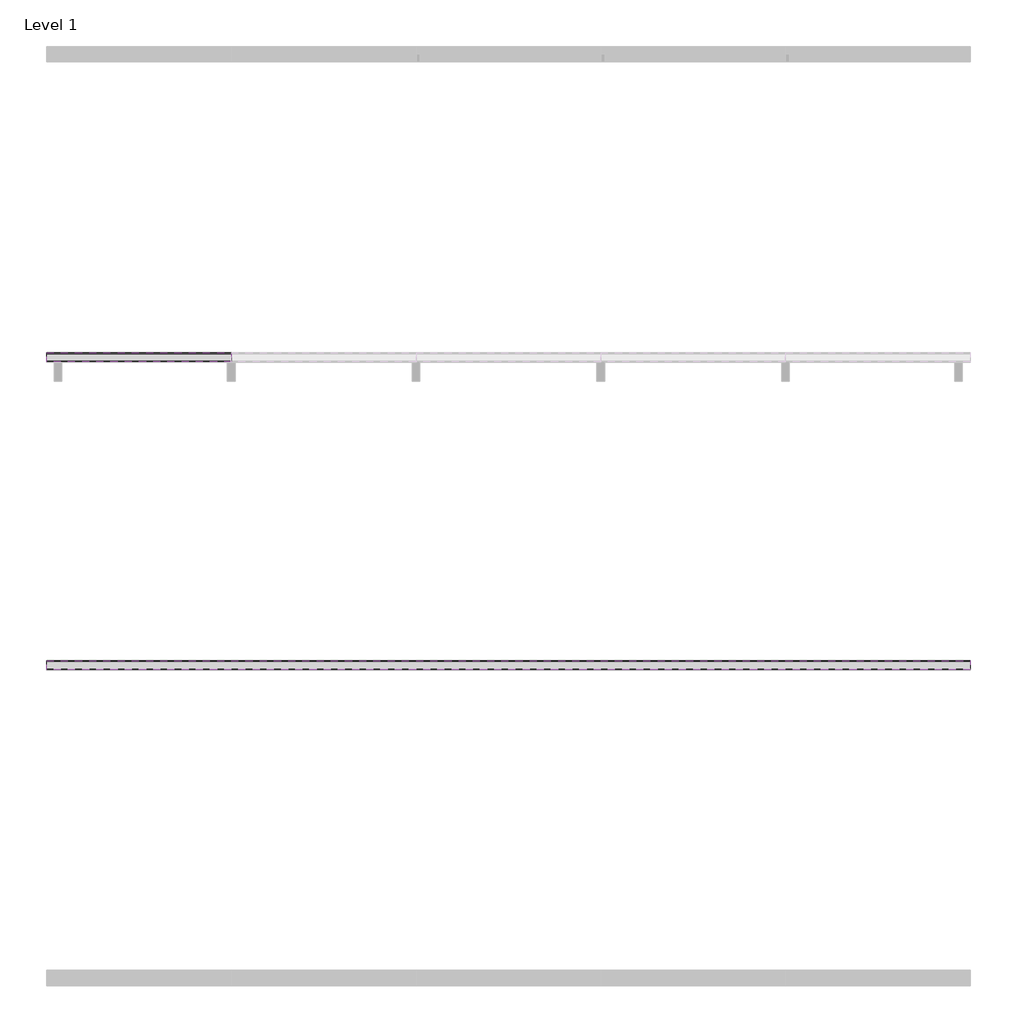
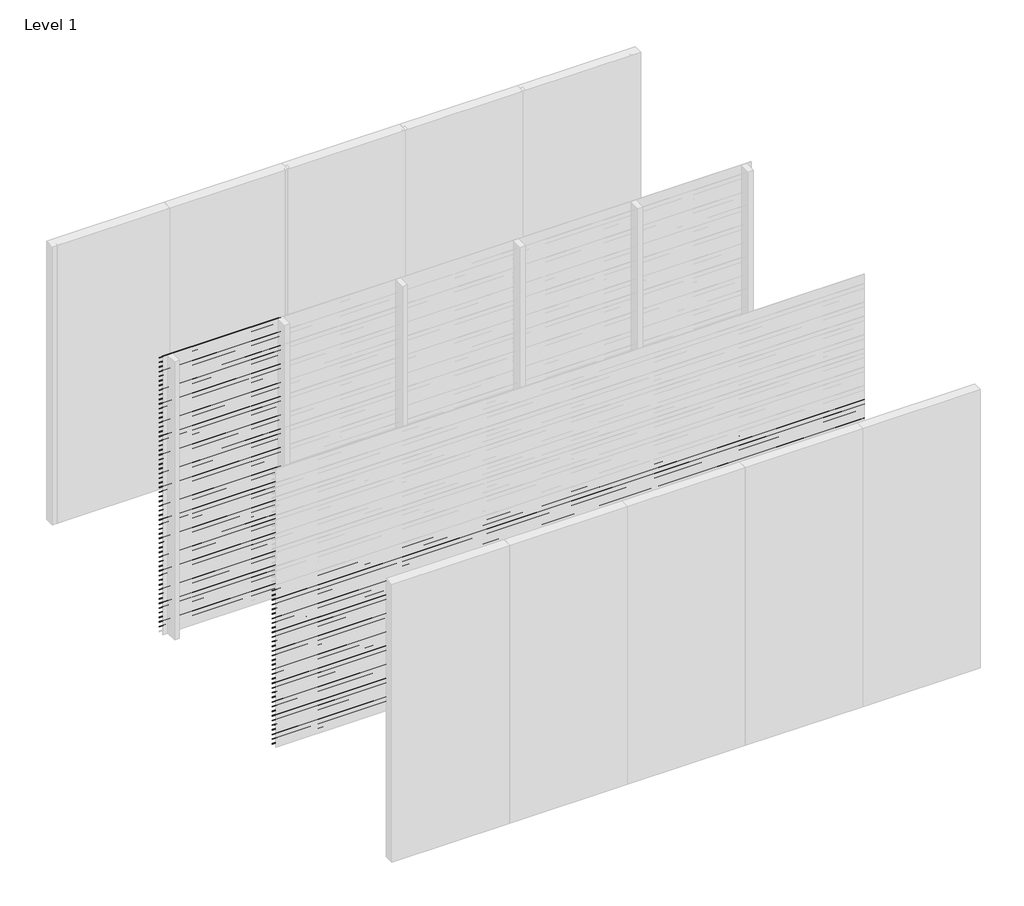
# One storey, part 2 of 16: 93 proxies.
"""IFC4 building model written with IfcOpenShell, lengths in millimetres."""

from ifc_helpers import new_model, si_unit, frame, origin, place, context, project, spatial, polyline, outline, extrude, element, save

model = new_model("IFC4")

# Units and contexts
model_context = context("Model", 3, world=origin())
ifc_project = project(units=[si_unit("LENGTHUNIT", "METRE", prefix="MILLI")], contexts=[model_context])

# Site, building, storey
site = spatial("IfcSite", under=ifc_project)
building = spatial("IfcBuilding", under=site)
storey = spatial("IfcBuildingStorey", under=building, Name="Level 1", Elevation=0.0)

# Proxies
placement = place(None, origin())
element("IfcBuildingElementProxy", 1, Name="Wall Sweeps", at=placement, inside=storey, context=model_context, shape_type="SweptSolid", body=[
    extrude(outline(polyline([(-17995.0, 3000.0), (-17995.0, 2998.0), (-17939.0, 2954.0), (-17939.0, 2946.0), (-17997.0, 2991.5714286), (-17997.0, 3000.0), (-17995.0, 3000.0)])), frame((0.0, 0.0, 0.0), z_axis=(1.0, 0.0, 0.0), x_axis=(0.0, 1.0, 0.0)), (0.0, 0.0, 1.0), 1200.0000002),
])
element("IfcBuildingElementProxy", 2, Name="Wall Sweeps", at=placement, inside=storey, context=model_context, shape_type="SweptSolid", body=[
    extrude(outline(polyline([(-17995.0, 2950.0), (-17995.0, 2948.0), (-17939.0, 2904.0), (-17939.0, 2896.0), (-17997.0, 2941.5714286), (-17997.0, 2950.0), (-17995.0, 2950.0)])), frame((0.0, 0.0, 0.0), z_axis=(1.0, 0.0, 0.0), x_axis=(0.0, 1.0, 0.0)), (0.0, 0.0, 1.0), 1200.0000002),
])
element("IfcBuildingElementProxy", 3, Name="Wall Sweeps", at=placement, inside=storey, context=model_context, shape_type="SweptSolid", body=[
    extrude(outline(polyline([(-17995.0, 2900.0), (-17995.0, 2898.0), (-17939.0, 2854.0), (-17939.0, 2846.0), (-17997.0, 2891.5714286), (-17997.0, 2900.0), (-17995.0, 2900.0)])), frame((0.0, 0.0, 0.0), z_axis=(1.0, 0.0, 0.0), x_axis=(0.0, 1.0, 0.0)), (0.0, 0.0, 1.0), 1200.0000002),
])
element("IfcBuildingElementProxy", 4, Name="Wall Sweeps", at=placement, inside=storey, context=model_context, shape_type="SweptSolid", body=[
    extrude(outline(polyline([(-17995.0, 2850.0), (-17995.0, 2848.0), (-17939.0, 2804.0), (-17939.0, 2796.0), (-17997.0, 2841.5714286), (-17997.0, 2850.0), (-17995.0, 2850.0)])), frame((0.0, 0.0, 0.0), z_axis=(1.0, 0.0, 0.0), x_axis=(0.0, 1.0, 0.0)), (0.0, 0.0, 1.0), 1200.0000002),
])
element("IfcBuildingElementProxy", 5, Name="Wall Sweeps", at=placement, inside=storey, context=model_context, shape_type="SweptSolid", body=[
    extrude(outline(polyline([(-17995.0, 2800.0), (-17995.0, 2798.0), (-17939.0, 2754.0), (-17939.0, 2746.0), (-17997.0, 2791.5714286), (-17997.0, 2800.0), (-17995.0, 2800.0)])), frame((0.0, 0.0, 0.0), z_axis=(1.0, 0.0, 0.0), x_axis=(0.0, 1.0, 0.0)), (0.0, 0.0, 1.0), 1200.0000002),
])
element("IfcBuildingElementProxy", 6, Name="Wall Sweeps", at=placement, inside=storey, context=model_context, shape_type="SweptSolid", body=[
    extrude(outline(polyline([(-17995.0, 2750.0), (-17995.0, 2748.0), (-17939.0, 2704.0), (-17939.0, 2696.0), (-17997.0, 2741.5714286), (-17997.0, 2750.0), (-17995.0, 2750.0)])), frame((0.0, 0.0, 0.0), z_axis=(1.0, 0.0, 0.0), x_axis=(0.0, 1.0, 0.0)), (0.0, 0.0, 1.0), 1200.0000002),
])
element("IfcBuildingElementProxy", 7, Name="Wall Sweeps", at=placement, inside=storey, context=model_context, shape_type="SweptSolid", body=[
    extrude(outline(polyline([(-17995.0, 2700.0), (-17995.0, 2698.0), (-17939.0, 2654.0), (-17939.0, 2646.0), (-17997.0, 2691.5714286), (-17997.0, 2700.0), (-17995.0, 2700.0)])), frame((0.0, 0.0, 0.0), z_axis=(1.0, 0.0, 0.0), x_axis=(0.0, 1.0, 0.0)), (0.0, 0.0, 1.0), 1200.0000002),
])
element("IfcBuildingElementProxy", 8, Name="Wall Sweeps", at=placement, inside=storey, context=model_context, shape_type="SweptSolid", body=[
    extrude(outline(polyline([(-17995.0, 2650.0), (-17995.0, 2648.0), (-17939.0, 2604.0), (-17939.0, 2596.0), (-17997.0, 2641.5714286), (-17997.0, 2650.0), (-17995.0, 2650.0)])), frame((0.0, 0.0, 0.0), z_axis=(1.0, 0.0, 0.0), x_axis=(0.0, 1.0, 0.0)), (0.0, 0.0, 1.0), 1200.0000002),
])
element("IfcBuildingElementProxy", 9, Name="Wall Sweeps", at=placement, inside=storey, context=model_context, shape_type="SweptSolid", body=[
    extrude(outline(polyline([(-17995.0, 2600.0), (-17995.0, 2598.0), (-17939.0, 2554.0), (-17939.0, 2546.0), (-17997.0, 2591.5714286), (-17997.0, 2600.0), (-17995.0, 2600.0)])), frame((0.0, 0.0, 0.0), z_axis=(1.0, 0.0, 0.0), x_axis=(0.0, 1.0, 0.0)), (0.0, 0.0, 1.0), 1200.0000002),
])
element("IfcBuildingElementProxy", 10, Name="Wall Sweeps", at=placement, inside=storey, context=model_context, shape_type="SweptSolid", body=[
    extrude(outline(polyline([(-17995.0, 2550.0), (-17995.0, 2548.0), (-17939.0, 2504.0), (-17939.0, 2496.0), (-17997.0, 2541.5714286), (-17997.0, 2550.0), (-17995.0, 2550.0)])), frame((0.0, 0.0, 0.0), z_axis=(1.0, 0.0, 0.0), x_axis=(0.0, 1.0, 0.0)), (0.0, 0.0, 1.0), 1200.0000002),
])
element("IfcBuildingElementProxy", 11, Name="Wall Sweeps", at=placement, inside=storey, context=model_context, shape_type="SweptSolid", body=[
    extrude(outline(polyline([(-17995.0, 2500.0), (-17995.0, 2498.0), (-17939.0, 2454.0), (-17939.0, 2446.0), (-17997.0, 2491.5714286), (-17997.0, 2500.0), (-17995.0, 2500.0)])), frame((0.0, 0.0, 0.0), z_axis=(1.0, 0.0, 0.0), x_axis=(0.0, 1.0, 0.0)), (0.0, 0.0, 1.0), 1200.0000002),
])
element("IfcBuildingElementProxy", 12, Name="Wall Sweeps", at=placement, inside=storey, context=model_context, shape_type="SweptSolid", body=[
    extrude(outline(polyline([(-17995.0, 2450.0), (-17995.0, 2448.0), (-17939.0, 2404.0), (-17939.0, 2396.0), (-17997.0, 2441.5714286), (-17997.0, 2450.0), (-17995.0, 2450.0)])), frame((0.0, 0.0, 0.0), z_axis=(1.0, 0.0, 0.0), x_axis=(0.0, 1.0, 0.0)), (0.0, 0.0, 1.0), 1200.0000002),
])
element("IfcBuildingElementProxy", 13, Name="Wall Sweeps", at=placement, inside=storey, context=model_context, shape_type="SweptSolid", body=[
    extrude(outline(polyline([(-17995.0, 2400.0), (-17995.0, 2398.0), (-17939.0, 2354.0), (-17939.0, 2346.0), (-17997.0, 2391.5714286), (-17997.0, 2400.0), (-17995.0, 2400.0)])), frame((0.0, 0.0, 0.0), z_axis=(1.0, 0.0, 0.0), x_axis=(0.0, 1.0, 0.0)), (0.0, 0.0, 1.0), 1200.0000002),
])
element("IfcBuildingElementProxy", 14, Name="Wall Sweeps", at=placement, inside=storey, context=model_context, shape_type="SweptSolid", body=[
    extrude(outline(polyline([(-17995.0, 2350.0), (-17995.0, 2348.0), (-17939.0, 2304.0), (-17939.0, 2296.0), (-17997.0, 2341.5714286), (-17997.0, 2350.0), (-17995.0, 2350.0)])), frame((0.0, 0.0, 0.0), z_axis=(1.0, 0.0, 0.0), x_axis=(0.0, 1.0, 0.0)), (0.0, 0.0, 1.0), 1200.0000002),
])
element("IfcBuildingElementProxy", 15, Name="Wall Sweeps", at=placement, inside=storey, context=model_context, shape_type="SweptSolid", body=[
    extrude(outline(polyline([(-17995.0, 2300.0), (-17995.0, 2298.0), (-17939.0, 2254.0), (-17939.0, 2246.0), (-17997.0, 2291.5714286), (-17997.0, 2300.0), (-17995.0, 2300.0)])), frame((0.0, 0.0, 0.0), z_axis=(1.0, 0.0, 0.0), x_axis=(0.0, 1.0, 0.0)), (0.0, 0.0, 1.0), 1200.0000002),
])
element("IfcBuildingElementProxy", 16, Name="Wall Sweeps", at=placement, inside=storey, context=model_context, shape_type="SweptSolid", body=[
    extrude(outline(polyline([(-17995.0, 2250.0), (-17995.0, 2248.0), (-17939.0, 2204.0), (-17939.0, 2196.0), (-17997.0, 2241.5714286), (-17997.0, 2250.0), (-17995.0, 2250.0)])), frame((0.0, 0.0, 0.0), z_axis=(1.0, 0.0, 0.0), x_axis=(0.0, 1.0, 0.0)), (0.0, 0.0, 1.0), 1200.0000002),
])
element("IfcBuildingElementProxy", 17, Name="Wall Sweeps", at=placement, inside=storey, context=model_context, shape_type="SweptSolid", body=[
    extrude(outline(polyline([(-17995.0, 2200.0), (-17995.0, 2198.0), (-17939.0, 2154.0), (-17939.0, 2146.0), (-17997.0, 2191.5714286), (-17997.0, 2200.0), (-17995.0, 2200.0)])), frame((0.0, 0.0, 0.0), z_axis=(1.0, 0.0, 0.0), x_axis=(0.0, 1.0, 0.0)), (0.0, 0.0, 1.0), 1200.0000002),
])
element("IfcBuildingElementProxy", 18, Name="Wall Sweeps", at=placement, inside=storey, context=model_context, shape_type="SweptSolid", body=[
    extrude(outline(polyline([(-17995.0, 2150.0), (-17995.0, 2148.0), (-17939.0, 2104.0), (-17939.0, 2096.0), (-17997.0, 2141.5714286), (-17997.0, 2150.0), (-17995.0, 2150.0)])), frame((0.0, 0.0, 0.0), z_axis=(1.0, 0.0, 0.0), x_axis=(0.0, 1.0, 0.0)), (0.0, 0.0, 1.0), 1200.0000002),
])
element("IfcBuildingElementProxy", 19, Name="Wall Sweeps", at=placement, inside=storey, context=model_context, shape_type="SweptSolid", body=[
    extrude(outline(polyline([(-17995.0, 2100.0), (-17995.0, 2098.0), (-17939.0, 2054.0), (-17939.0, 2046.0), (-17997.0, 2091.5714286), (-17997.0, 2100.0), (-17995.0, 2100.0)])), frame((0.0, 0.0, 0.0), z_axis=(1.0, 0.0, 0.0), x_axis=(0.0, 1.0, 0.0)), (0.0, 0.0, 1.0), 1200.0000002),
])
element("IfcBuildingElementProxy", 20, Name="Wall Sweeps", at=placement, inside=storey, context=model_context, shape_type="SweptSolid", body=[
    extrude(outline(polyline([(-17995.0, 2050.0), (-17995.0, 2048.0), (-17939.0, 2004.0), (-17939.0, 1996.0), (-17997.0, 2041.5714286), (-17997.0, 2050.0), (-17995.0, 2050.0)])), frame((0.0, 0.0, 0.0), z_axis=(1.0, 0.0, 0.0), x_axis=(0.0, 1.0, 0.0)), (0.0, 0.0, 1.0), 1200.0000002),
])
element("IfcBuildingElementProxy", 21, Name="Wall Sweeps", at=placement, inside=storey, context=model_context, shape_type="SweptSolid", body=[
    extrude(outline(polyline([(-17995.0, 2000.0), (-17995.0, 1998.0), (-17939.0, 1954.0), (-17939.0, 1946.0), (-17997.0, 1991.5714286), (-17997.0, 2000.0), (-17995.0, 2000.0)])), frame((0.0, 0.0, 0.0), z_axis=(1.0, 0.0, 0.0), x_axis=(0.0, 1.0, 0.0)), (0.0, 0.0, 1.0), 1200.0000002),
])
element("IfcBuildingElementProxy", 22, Name="Wall Sweeps", at=placement, inside=storey, context=model_context, shape_type="SweptSolid", body=[
    extrude(outline(polyline([(-17995.0, 1950.0), (-17995.0, 1948.0), (-17939.0, 1904.0), (-17939.0, 1896.0), (-17997.0, 1941.5714286), (-17997.0, 1950.0), (-17995.0, 1950.0)])), frame((0.0, 0.0, 0.0), z_axis=(1.0, 0.0, 0.0), x_axis=(0.0, 1.0, 0.0)), (0.0, 0.0, 1.0), 1200.0000002),
])
element("IfcBuildingElementProxy", 23, Name="Wall Sweeps", at=placement, inside=storey, context=model_context, shape_type="SweptSolid", body=[
    extrude(outline(polyline([(-17995.0, 1900.0), (-17995.0, 1898.0), (-17939.0, 1854.0), (-17939.0, 1846.0), (-17997.0, 1891.5714286), (-17997.0, 1900.0), (-17995.0, 1900.0)])), frame((0.0, 0.0, 0.0), z_axis=(1.0, 0.0, 0.0), x_axis=(0.0, 1.0, 0.0)), (0.0, 0.0, 1.0), 1200.0000002),
])
element("IfcBuildingElementProxy", 24, Name="Wall Sweeps", at=placement, inside=storey, context=model_context, shape_type="SweptSolid", body=[
    extrude(outline(polyline([(-17995.0, 1850.0), (-17995.0, 1848.0), (-17939.0, 1804.0), (-17939.0, 1796.0), (-17997.0, 1841.5714286), (-17997.0, 1850.0), (-17995.0, 1850.0)])), frame((0.0, 0.0, 0.0), z_axis=(1.0, 0.0, 0.0), x_axis=(0.0, 1.0, 0.0)), (0.0, 0.0, 1.0), 1200.0000002),
])
element("IfcBuildingElementProxy", 25, Name="Wall Sweeps", at=placement, inside=storey, context=model_context, shape_type="SweptSolid", body=[
    extrude(outline(polyline([(-17995.0, 1800.0), (-17995.0, 1798.0), (-17939.0, 1754.0), (-17939.0, 1746.0), (-17997.0, 1791.5714286), (-17997.0, 1800.0), (-17995.0, 1800.0)])), frame((0.0, 0.0, 0.0), z_axis=(1.0, 0.0, 0.0), x_axis=(0.0, 1.0, 0.0)), (0.0, 0.0, 1.0), 1200.0000002),
])
element("IfcBuildingElementProxy", 26, Name="Wall Sweeps", at=placement, inside=storey, context=model_context, shape_type="SweptSolid", body=[
    extrude(outline(polyline([(-17995.0, 1750.0), (-17995.0, 1748.0), (-17939.0, 1704.0), (-17939.0, 1696.0), (-17997.0, 1741.5714286), (-17997.0, 1750.0), (-17995.0, 1750.0)])), frame((0.0, 0.0, 0.0), z_axis=(1.0, 0.0, 0.0), x_axis=(0.0, 1.0, 0.0)), (0.0, 0.0, 1.0), 1200.0000002),
])
element("IfcBuildingElementProxy", 27, Name="Wall Sweeps", at=placement, inside=storey, context=model_context, shape_type="SweptSolid", body=[
    extrude(outline(polyline([(-17995.0, 1700.0), (-17995.0, 1698.0), (-17939.0, 1654.0), (-17939.0, 1646.0), (-17997.0, 1691.5714286), (-17997.0, 1700.0), (-17995.0, 1700.0)])), frame((0.0, 0.0, 0.0), z_axis=(1.0, 0.0, 0.0), x_axis=(0.0, 1.0, 0.0)), (0.0, 0.0, 1.0), 1200.0000002),
])
element("IfcBuildingElementProxy", 28, Name="Wall Sweeps", at=placement, inside=storey, context=model_context, shape_type="SweptSolid", body=[
    extrude(outline(polyline([(-17995.0, 1650.0), (-17995.0, 1648.0), (-17939.0, 1604.0), (-17939.0, 1596.0), (-17997.0, 1641.5714286), (-17997.0, 1650.0), (-17995.0, 1650.0)])), frame((0.0, 0.0, 0.0), z_axis=(1.0, 0.0, 0.0), x_axis=(0.0, 1.0, 0.0)), (0.0, 0.0, 1.0), 1200.0000002),
])
element("IfcBuildingElementProxy", 29, Name="Wall Sweeps", at=placement, inside=storey, context=model_context, shape_type="SweptSolid", body=[
    extrude(outline(polyline([(-17995.0, 1600.0), (-17995.0, 1598.0), (-17939.0, 1554.0), (-17939.0, 1546.0), (-17997.0, 1591.5714286), (-17997.0, 1600.0), (-17995.0, 1600.0)])), frame((0.0, 0.0, 0.0), z_axis=(1.0, 0.0, 0.0), x_axis=(0.0, 1.0, 0.0)), (0.0, 0.0, 1.0), 1200.0000002),
])
element("IfcBuildingElementProxy", 30, Name="Wall Sweeps", at=placement, inside=storey, context=model_context, shape_type="SweptSolid", body=[
    extrude(outline(polyline([(-17995.0, 1550.0), (-17995.0, 1548.0), (-17939.0, 1504.0), (-17939.0, 1496.0), (-17997.0, 1541.5714286), (-17997.0, 1550.0), (-17995.0, 1550.0)])), frame((0.0, 0.0, 0.0), z_axis=(1.0, 0.0, 0.0), x_axis=(0.0, 1.0, 0.0)), (0.0, 0.0, 1.0), 1200.0000002),
])
element("IfcBuildingElementProxy", 31, Name="Wall Sweeps", at=placement, inside=storey, context=model_context, shape_type="SweptSolid", body=[
    extrude(outline(polyline([(-17995.0, 1500.0), (-17995.0, 1498.0), (-17939.0, 1454.0), (-17939.0, 1446.0), (-17997.0, 1491.5714286), (-17997.0, 1500.0), (-17995.0, 1500.0)])), frame((0.0, 0.0, 0.0), z_axis=(1.0, 0.0, 0.0), x_axis=(0.0, 1.0, 0.0)), (0.0, 0.0, 1.0), 1200.0000002),
])
element("IfcBuildingElementProxy", 32, Name="Wall Sweeps", at=placement, inside=storey, context=model_context, shape_type="SweptSolid", body=[
    extrude(outline(polyline([(-17995.0, 1450.0), (-17995.0, 1448.0), (-17939.0, 1404.0), (-17939.0, 1396.0), (-17997.0, 1441.5714286), (-17997.0, 1450.0), (-17995.0, 1450.0)])), frame((0.0, 0.0, 0.0), z_axis=(1.0, 0.0, 0.0), x_axis=(0.0, 1.0, 0.0)), (0.0, 0.0, 1.0), 1200.0000002),
])
element("IfcBuildingElementProxy", 33, Name="Wall Sweeps", at=placement, inside=storey, context=model_context, shape_type="SweptSolid", body=[
    extrude(outline(polyline([(-17995.0, 1400.0), (-17995.0, 1398.0), (-17939.0, 1354.0), (-17939.0, 1346.0), (-17997.0, 1391.5714286), (-17997.0, 1400.0), (-17995.0, 1400.0)])), frame((0.0, 0.0, 0.0), z_axis=(1.0, 0.0, 0.0), x_axis=(0.0, 1.0, 0.0)), (0.0, 0.0, 1.0), 1200.0000002),
])
element("IfcBuildingElementProxy", 34, Name="Wall Sweeps", at=placement, inside=storey, context=model_context, shape_type="SweptSolid", body=[
    extrude(outline(polyline([(-17995.0, 1350.0), (-17995.0, 1348.0), (-17939.0, 1304.0), (-17939.0, 1296.0), (-17997.0, 1341.5714286), (-17997.0, 1350.0), (-17995.0, 1350.0)])), frame((0.0, 0.0, 0.0), z_axis=(1.0, 0.0, 0.0), x_axis=(0.0, 1.0, 0.0)), (0.0, 0.0, 1.0), 1200.0000002),
])
element("IfcBuildingElementProxy", 35, Name="Wall Sweeps", at=placement, inside=storey, context=model_context, shape_type="SweptSolid", body=[
    extrude(outline(polyline([(-17995.0, 1300.0), (-17995.0, 1298.0), (-17939.0, 1254.0), (-17939.0, 1246.0), (-17997.0, 1291.5714286), (-17997.0, 1300.0), (-17995.0, 1300.0)])), frame((0.0, 0.0, 0.0), z_axis=(1.0, 0.0, 0.0), x_axis=(0.0, 1.0, 0.0)), (0.0, 0.0, 1.0), 1200.0000002),
])
element("IfcBuildingElementProxy", 36, Name="Wall Sweeps", at=placement, inside=storey, context=model_context, shape_type="SweptSolid", body=[
    extrude(outline(polyline([(-17995.0, 1250.0), (-17995.0, 1248.0), (-17939.0, 1204.0), (-17939.0, 1196.0), (-17997.0, 1241.5714286), (-17997.0, 1250.0), (-17995.0, 1250.0)])), frame((0.0, 0.0, 0.0), z_axis=(1.0, 0.0, 0.0), x_axis=(0.0, 1.0, 0.0)), (0.0, 0.0, 1.0), 1200.0000002),
])
element("IfcBuildingElementProxy", 37, Name="Wall Sweeps", at=placement, inside=storey, context=model_context, shape_type="SweptSolid", body=[
    extrude(outline(polyline([(-17995.0, 1200.0), (-17995.0, 1198.0), (-17939.0, 1154.0), (-17939.0, 1146.0), (-17997.0, 1191.5714286), (-17997.0, 1200.0), (-17995.0, 1200.0)])), frame((0.0, 0.0, 0.0), z_axis=(1.0, 0.0, 0.0), x_axis=(0.0, 1.0, 0.0)), (0.0, 0.0, 1.0), 1200.0000002),
])
element("IfcBuildingElementProxy", 38, Name="Wall Sweeps", at=placement, inside=storey, context=model_context, shape_type="SweptSolid", body=[
    extrude(outline(polyline([(-17995.0, 1150.0), (-17995.0, 1148.0), (-17939.0, 1104.0), (-17939.0, 1096.0), (-17997.0, 1141.5714286), (-17997.0, 1150.0), (-17995.0, 1150.0)])), frame((0.0, 0.0, 0.0), z_axis=(1.0, 0.0, 0.0), x_axis=(0.0, 1.0, 0.0)), (0.0, 0.0, 1.0), 1200.0000002),
])
element("IfcBuildingElementProxy", 39, Name="Wall Sweeps", at=placement, inside=storey, context=model_context, shape_type="SweptSolid", body=[
    extrude(outline(polyline([(-17995.0, 1100.0), (-17995.0, 1098.0), (-17939.0, 1054.0), (-17939.0, 1046.0), (-17997.0, 1091.5714286), (-17997.0, 1100.0), (-17995.0, 1100.0)])), frame((0.0, 0.0, 0.0), z_axis=(1.0, 0.0, 0.0), x_axis=(0.0, 1.0, 0.0)), (0.0, 0.0, 1.0), 1200.0000002),
])
element("IfcBuildingElementProxy", 40, Name="Wall Sweeps", at=placement, inside=storey, context=model_context, shape_type="SweptSolid", body=[
    extrude(outline(polyline([(-17995.0, 1050.0), (-17995.0, 1048.0), (-17939.0, 1004.0), (-17939.0, 996.0), (-17997.0, 1041.5714286), (-17997.0, 1050.0), (-17995.0, 1050.0)])), frame((0.0, 0.0, 0.0), z_axis=(1.0, 0.0, 0.0), x_axis=(0.0, 1.0, 0.0)), (0.0, 0.0, 1.0), 1200.0000002),
])
element("IfcBuildingElementProxy", 41, Name="Wall Sweeps", at=placement, inside=storey, context=model_context, shape_type="SweptSolid", body=[
    extrude(outline(polyline([(-17995.0, 1000.0), (-17995.0, 998.0), (-17939.0, 954.0), (-17939.0, 946.0), (-17997.0, 991.5714286), (-17997.0, 1000.0), (-17995.0, 1000.0)])), frame((0.0, 0.0, 0.0), z_axis=(1.0, 0.0, 0.0), x_axis=(0.0, 1.0, 0.0)), (0.0, 0.0, 1.0), 1200.0000002),
])
element("IfcBuildingElementProxy", 42, Name="Wall Sweeps", at=placement, inside=storey, context=model_context, shape_type="SweptSolid", body=[
    extrude(outline(polyline([(-17995.0, 950.0), (-17995.0, 948.0), (-17939.0, 904.0), (-17939.0, 896.0), (-17997.0, 941.5714286), (-17997.0, 950.0), (-17995.0, 950.0)])), frame((0.0, 0.0, 0.0), z_axis=(1.0, 0.0, 0.0), x_axis=(0.0, 1.0, 0.0)), (0.0, 0.0, 1.0), 1200.0000002),
])
element("IfcBuildingElementProxy", 43, Name="Wall Sweeps", at=placement, inside=storey, context=model_context, shape_type="SweptSolid", body=[
    extrude(outline(polyline([(-17995.0, 900.0), (-17995.0, 898.0), (-17939.0, 854.0), (-17939.0, 846.0), (-17997.0, 891.5714286), (-17997.0, 900.0), (-17995.0, 900.0)])), frame((0.0, 0.0, 0.0), z_axis=(1.0, 0.0, 0.0), x_axis=(0.0, 1.0, 0.0)), (0.0, 0.0, 1.0), 1200.0000002),
])
element("IfcBuildingElementProxy", 44, Name="Wall Sweeps", at=placement, inside=storey, context=model_context, shape_type="SweptSolid", body=[
    extrude(outline(polyline([(-17995.0, 850.0), (-17995.0, 848.0), (-17939.0, 804.0), (-17939.0, 796.0), (-17997.0, 841.5714286), (-17997.0, 850.0), (-17995.0, 850.0)])), frame((0.0, 0.0, 0.0), z_axis=(1.0, 0.0, 0.0), x_axis=(0.0, 1.0, 0.0)), (0.0, 0.0, 1.0), 1200.0000002),
])
element("IfcBuildingElementProxy", 45, Name="Wall Sweeps", at=placement, inside=storey, context=model_context, shape_type="SweptSolid", body=[
    extrude(outline(polyline([(-17995.0, 800.0), (-17995.0, 798.0), (-17939.0, 754.0), (-17939.0, 746.0), (-17997.0, 791.5714286), (-17997.0, 800.0), (-17995.0, 800.0)])), frame((0.0, 0.0, 0.0), z_axis=(1.0, 0.0, 0.0), x_axis=(0.0, 1.0, 0.0)), (0.0, 0.0, 1.0), 1200.0000002),
])
element("IfcBuildingElementProxy", 46, Name="Wall Sweeps", at=placement, inside=storey, context=model_context, shape_type="SweptSolid", body=[
    extrude(outline(polyline([(-17995.0, 750.0), (-17995.0, 748.0), (-17939.0, 704.0), (-17939.0, 696.0), (-17997.0, 741.5714286), (-17997.0, 750.0), (-17995.0, 750.0)])), frame((0.0, 0.0, 0.0), z_axis=(1.0, 0.0, 0.0), x_axis=(0.0, 1.0, 0.0)), (0.0, 0.0, 1.0), 1200.0000002),
])
element("IfcBuildingElementProxy", 47, Name="Wall Sweeps", at=placement, inside=storey, context=model_context, shape_type="SweptSolid", body=[
    extrude(outline(polyline([(-17995.0, 700.0), (-17995.0, 698.0), (-17939.0, 654.0), (-17939.0, 646.0), (-17997.0, 691.5714286), (-17997.0, 700.0), (-17995.0, 700.0)])), frame((0.0, 0.0, 0.0), z_axis=(1.0, 0.0, 0.0), x_axis=(0.0, 1.0, 0.0)), (0.0, 0.0, 1.0), 1200.0000002),
])
element("IfcBuildingElementProxy", 48, Name="Wall Sweeps", at=placement, inside=storey, context=model_context, shape_type="SweptSolid", body=[
    extrude(outline(polyline([(-17995.0, 650.0), (-17995.0, 648.0), (-17939.0, 604.0), (-17939.0, 596.0), (-17997.0, 641.5714286), (-17997.0, 650.0), (-17995.0, 650.0)])), frame((0.0, 0.0, 0.0), z_axis=(1.0, 0.0, 0.0), x_axis=(0.0, 1.0, 0.0)), (0.0, 0.0, 1.0), 1200.0000002),
])
element("IfcBuildingElementProxy", 49, Name="Wall Sweeps", at=placement, inside=storey, context=model_context, shape_type="SweptSolid", body=[
    extrude(outline(polyline([(-17995.0, 600.0), (-17995.0, 598.0), (-17939.0, 554.0), (-17939.0, 546.0), (-17997.0, 591.5714286), (-17997.0, 600.0), (-17995.0, 600.0)])), frame((0.0, 0.0, 0.0), z_axis=(1.0, 0.0, 0.0), x_axis=(0.0, 1.0, 0.0)), (0.0, 0.0, 1.0), 1200.0000002),
])
element("IfcBuildingElementProxy", 50, Name="Wall Sweeps", at=placement, inside=storey, context=model_context, shape_type="SweptSolid", body=[
    extrude(outline(polyline([(-17995.0, 550.0), (-17995.0, 548.0), (-17939.0, 504.0), (-17939.0, 496.0), (-17997.0, 541.5714286), (-17997.0, 550.0), (-17995.0, 550.0)])), frame((0.0, 0.0, 0.0), z_axis=(1.0, 0.0, 0.0), x_axis=(0.0, 1.0, 0.0)), (0.0, 0.0, 1.0), 1200.0000002),
])
element("IfcBuildingElementProxy", 51, Name="Wall Sweeps", at=placement, inside=storey, context=model_context, shape_type="SweptSolid", body=[
    extrude(outline(polyline([(-17995.0, 500.0), (-17995.0, 498.0), (-17939.0, 454.0), (-17939.0, 446.0), (-17997.0, 491.5714286), (-17997.0, 500.0), (-17995.0, 500.0)])), frame((0.0, 0.0, 0.0), z_axis=(1.0, 0.0, 0.0), x_axis=(0.0, 1.0, 0.0)), (0.0, 0.0, 1.0), 1200.0000002),
])
element("IfcBuildingElementProxy", 52, Name="Wall Sweeps", at=placement, inside=storey, context=model_context, shape_type="SweptSolid", body=[
    extrude(outline(polyline([(-17995.0, 450.0), (-17995.0, 448.0), (-17939.0, 404.0), (-17939.0, 396.0), (-17997.0, 441.5714286), (-17997.0, 450.0), (-17995.0, 450.0)])), frame((0.0, 0.0, 0.0), z_axis=(1.0, 0.0, 0.0), x_axis=(0.0, 1.0, 0.0)), (0.0, 0.0, 1.0), 1200.0000002),
])
element("IfcBuildingElementProxy", 53, Name="Wall Sweeps", at=placement, inside=storey, context=model_context, shape_type="SweptSolid", body=[
    extrude(outline(polyline([(-17995.0, 400.0), (-17995.0, 398.0), (-17939.0, 354.0), (-17939.0, 346.0), (-17997.0, 391.5714286), (-17997.0, 400.0), (-17995.0, 400.0)])), frame((0.0, 0.0, 0.0), z_axis=(1.0, 0.0, 0.0), x_axis=(0.0, 1.0, 0.0)), (0.0, 0.0, 1.0), 1200.0000002),
])
element("IfcBuildingElementProxy", 54, Name="Wall Sweeps", at=placement, inside=storey, context=model_context, shape_type="SweptSolid", body=[
    extrude(outline(polyline([(-17995.0, 350.0), (-17995.0, 348.0), (-17939.0, 304.0), (-17939.0, 296.0), (-17997.0, 341.5714286), (-17997.0, 350.0), (-17995.0, 350.0)])), frame((0.0, 0.0, 0.0), z_axis=(1.0, 0.0, 0.0), x_axis=(0.0, 1.0, 0.0)), (0.0, 0.0, 1.0), 1200.0000002),
])
element("IfcBuildingElementProxy", 55, Name="Wall Sweeps", at=placement, inside=storey, context=model_context, shape_type="SweptSolid", body=[
    extrude(outline(polyline([(-17995.0, 300.0), (-17995.0, 298.0), (-17939.0, 254.0), (-17939.0, 246.0), (-17997.0, 291.5714286), (-17997.0, 300.0), (-17995.0, 300.0)])), frame((0.0, 0.0, 0.0), z_axis=(1.0, 0.0, 0.0), x_axis=(0.0, 1.0, 0.0)), (0.0, 0.0, 1.0), 1200.0000002),
])
element("IfcBuildingElementProxy", 56, Name="Wall Sweeps", at=placement, inside=storey, context=model_context, shape_type="SweptSolid", body=[
    extrude(outline(polyline([(-17995.0, 250.0), (-17995.0, 248.0), (-17939.0, 204.0), (-17939.0, 196.0), (-17997.0, 241.5714286), (-17997.0, 250.0), (-17995.0, 250.0)])), frame((0.0, 0.0, 0.0), z_axis=(1.0, 0.0, 0.0), x_axis=(0.0, 1.0, 0.0)), (0.0, 0.0, 1.0), 1200.0000002),
])
element("IfcBuildingElementProxy", 57, Name="Wall Sweeps", at=placement, inside=storey, context=model_context, shape_type="SweptSolid", body=[
    extrude(outline(polyline([(-17995.0, 200.0), (-17995.0, 198.0), (-17939.0, 154.0), (-17939.0, 146.0), (-17997.0, 191.5714286), (-17997.0, 200.0), (-17995.0, 200.0)])), frame((0.0, 0.0, 0.0), z_axis=(1.0, 0.0, 0.0), x_axis=(0.0, 1.0, 0.0)), (0.0, 0.0, 1.0), 1200.0000002),
])
element("IfcBuildingElementProxy", 58, Name="Wall Sweeps", at=placement, inside=storey, context=model_context, shape_type="SweptSolid", body=[
    extrude(outline(polyline([(-17995.0, 150.0), (-17995.0, 148.0), (-17939.0, 104.0), (-17939.0, 96.0), (-17997.0, 141.5714286), (-17997.0, 150.0), (-17995.0, 150.0)])), frame((0.0, 0.0, 0.0), z_axis=(1.0, 0.0, 0.0), x_axis=(0.0, 1.0, 0.0)), (0.0, 0.0, 1.0), 1200.0000002),
])
element("IfcBuildingElementProxy", 59, Name="Wall Sweeps", at=placement, inside=storey, context=model_context, shape_type="SweptSolid", body=[
    extrude(outline(polyline([(-17995.0, 100.0), (-17995.0, 98.0), (-17939.0, 54.0), (-17939.0, 46.0), (-17997.0, 91.5714286), (-17997.0, 100.0), (-17995.0, 100.0)])), frame((0.0, 0.0, 0.0), z_axis=(1.0, 0.0, 0.0), x_axis=(0.0, 1.0, 0.0)), (0.0, 0.0, 1.0), 1200.0000002),
])
element("IfcBuildingElementProxy", 60, Name="Wall Sweeps", at=placement, inside=storey, context=model_context, shape_type="SweptSolid", body=[
    extrude(outline(polyline([(-19995.0, 1700.0), (-19995.0, 1698.0), (-19939.0, 1654.0), (-19939.0, 1646.0), (-19997.0, 1691.5714286), (-19997.0, 1700.0), (-19995.0, 1700.0)])), frame((0.0, 0.0, 0.0), z_axis=(1.0, 0.0, 0.0), x_axis=(0.0, 1.0, 0.0)), (0.0, 0.0, 1.0), 6000.0),
])
element("IfcBuildingElementProxy", 61, Name="Wall Sweeps", at=placement, inside=storey, context=model_context, shape_type="SweptSolid", body=[
    extrude(outline(polyline([(-19995.0, 1650.0), (-19995.0, 1648.0), (-19939.0, 1604.0), (-19939.0, 1596.0), (-19997.0, 1641.5714286), (-19997.0, 1650.0), (-19995.0, 1650.0)])), frame((0.0, 0.0, 0.0), z_axis=(1.0, 0.0, 0.0), x_axis=(0.0, 1.0, 0.0)), (0.0, 0.0, 1.0), 6000.0),
])
element("IfcBuildingElementProxy", 62, Name="Wall Sweeps", at=placement, inside=storey, context=model_context, shape_type="SweptSolid", body=[
    extrude(outline(polyline([(-19995.0, 1600.0), (-19995.0, 1598.0), (-19939.0, 1554.0), (-19939.0, 1546.0), (-19997.0, 1591.5714286), (-19997.0, 1600.0), (-19995.0, 1600.0)])), frame((0.0, 0.0, 0.0), z_axis=(1.0, 0.0, 0.0), x_axis=(0.0, 1.0, 0.0)), (0.0, 0.0, 1.0), 6000.0),
])
element("IfcBuildingElementProxy", 63, Name="Wall Sweeps", at=placement, inside=storey, context=model_context, shape_type="SweptSolid", body=[
    extrude(outline(polyline([(-19995.0, 1550.0), (-19995.0, 1548.0), (-19939.0, 1504.0), (-19939.0, 1496.0), (-19997.0, 1541.5714286), (-19997.0, 1550.0), (-19995.0, 1550.0)])), frame((0.0, 0.0, 0.0), z_axis=(1.0, 0.0, 0.0), x_axis=(0.0, 1.0, 0.0)), (0.0, 0.0, 1.0), 6000.0),
])
element("IfcBuildingElementProxy", 64, Name="Wall Sweeps", at=placement, inside=storey, context=model_context, shape_type="SweptSolid", body=[
    extrude(outline(polyline([(-19995.0, 1500.0), (-19995.0, 1498.0), (-19939.0, 1454.0), (-19939.0, 1446.0), (-19997.0, 1491.5714286), (-19997.0, 1500.0), (-19995.0, 1500.0)])), frame((0.0, 0.0, 0.0), z_axis=(1.0, 0.0, 0.0), x_axis=(0.0, 1.0, 0.0)), (0.0, 0.0, 1.0), 6000.0),
])
element("IfcBuildingElementProxy", 65, Name="Wall Sweeps", at=placement, inside=storey, context=model_context, shape_type="SweptSolid", body=[
    extrude(outline(polyline([(-19995.0, 1450.0), (-19995.0, 1448.0), (-19939.0, 1404.0), (-19939.0, 1396.0), (-19997.0, 1441.5714286), (-19997.0, 1450.0), (-19995.0, 1450.0)])), frame((0.0, 0.0, 0.0), z_axis=(1.0, 0.0, 0.0), x_axis=(0.0, 1.0, 0.0)), (0.0, 0.0, 1.0), 6000.0),
])
element("IfcBuildingElementProxy", 66, Name="Wall Sweeps", at=placement, inside=storey, context=model_context, shape_type="SweptSolid", body=[
    extrude(outline(polyline([(-19995.0, 1400.0), (-19995.0, 1398.0), (-19939.0, 1354.0), (-19939.0, 1346.0), (-19997.0, 1391.5714286), (-19997.0, 1400.0), (-19995.0, 1400.0)])), frame((0.0, 0.0, 0.0), z_axis=(1.0, 0.0, 0.0), x_axis=(0.0, 1.0, 0.0)), (0.0, 0.0, 1.0), 6000.0),
])
element("IfcBuildingElementProxy", 67, Name="Wall Sweeps", at=placement, inside=storey, context=model_context, shape_type="SweptSolid", body=[
    extrude(outline(polyline([(-19995.0, 1350.0), (-19995.0, 1348.0), (-19939.0, 1304.0), (-19939.0, 1296.0), (-19997.0, 1341.5714286), (-19997.0, 1350.0), (-19995.0, 1350.0)])), frame((0.0, 0.0, 0.0), z_axis=(1.0, 0.0, 0.0), x_axis=(0.0, 1.0, 0.0)), (0.0, 0.0, 1.0), 6000.0),
])
element("IfcBuildingElementProxy", 68, Name="Wall Sweeps", at=placement, inside=storey, context=model_context, shape_type="SweptSolid", body=[
    extrude(outline(polyline([(-19995.0, 1300.0), (-19995.0, 1298.0), (-19939.0, 1254.0), (-19939.0, 1246.0), (-19997.0, 1291.5714286), (-19997.0, 1300.0), (-19995.0, 1300.0)])), frame((0.0, 0.0, 0.0), z_axis=(1.0, 0.0, 0.0), x_axis=(0.0, 1.0, 0.0)), (0.0, 0.0, 1.0), 6000.0),
])
element("IfcBuildingElementProxy", 69, Name="Wall Sweeps", at=placement, inside=storey, context=model_context, shape_type="SweptSolid", body=[
    extrude(outline(polyline([(-19995.0, 1250.0), (-19995.0, 1248.0), (-19939.0, 1204.0), (-19939.0, 1196.0), (-19997.0, 1241.5714286), (-19997.0, 1250.0), (-19995.0, 1250.0)])), frame((0.0, 0.0, 0.0), z_axis=(1.0, 0.0, 0.0), x_axis=(0.0, 1.0, 0.0)), (0.0, 0.0, 1.0), 6000.0),
])
element("IfcBuildingElementProxy", 70, Name="Wall Sweeps", at=placement, inside=storey, context=model_context, shape_type="SweptSolid", body=[
    extrude(outline(polyline([(-19995.0, 1200.0), (-19995.0, 1198.0), (-19939.0, 1154.0), (-19939.0, 1146.0), (-19997.0, 1191.5714286), (-19997.0, 1200.0), (-19995.0, 1200.0)])), frame((0.0, 0.0, 0.0), z_axis=(1.0, 0.0, 0.0), x_axis=(0.0, 1.0, 0.0)), (0.0, 0.0, 1.0), 6000.0),
])
element("IfcBuildingElementProxy", 71, Name="Wall Sweeps", at=placement, inside=storey, context=model_context, shape_type="SweptSolid", body=[
    extrude(outline(polyline([(-19995.0, 1150.0), (-19995.0, 1148.0), (-19939.0, 1104.0), (-19939.0, 1096.0), (-19997.0, 1141.5714286), (-19997.0, 1150.0), (-19995.0, 1150.0)])), frame((0.0, 0.0, 0.0), z_axis=(1.0, 0.0, 0.0), x_axis=(0.0, 1.0, 0.0)), (0.0, 0.0, 1.0), 6000.0),
])
element("IfcBuildingElementProxy", 72, Name="Wall Sweeps", at=placement, inside=storey, context=model_context, shape_type="SweptSolid", body=[
    extrude(outline(polyline([(-19995.0, 1100.0), (-19995.0, 1098.0), (-19939.0, 1054.0), (-19939.0, 1046.0), (-19997.0, 1091.5714286), (-19997.0, 1100.0), (-19995.0, 1100.0)])), frame((0.0, 0.0, 0.0), z_axis=(1.0, 0.0, 0.0), x_axis=(0.0, 1.0, 0.0)), (0.0, 0.0, 1.0), 6000.0),
])
element("IfcBuildingElementProxy", 73, Name="Wall Sweeps", at=placement, inside=storey, context=model_context, shape_type="SweptSolid", body=[
    extrude(outline(polyline([(-19995.0, 1050.0), (-19995.0, 1048.0), (-19939.0, 1004.0), (-19939.0, 996.0), (-19997.0, 1041.5714286), (-19997.0, 1050.0), (-19995.0, 1050.0)])), frame((0.0, 0.0, 0.0), z_axis=(1.0, 0.0, 0.0), x_axis=(0.0, 1.0, 0.0)), (0.0, 0.0, 1.0), 6000.0),
])
element("IfcBuildingElementProxy", 74, Name="Wall Sweeps", at=placement, inside=storey, context=model_context, shape_type="SweptSolid", body=[
    extrude(outline(polyline([(-19995.0, 1000.0), (-19995.0, 998.0), (-19939.0, 954.0), (-19939.0, 946.0), (-19997.0, 991.5714286), (-19997.0, 1000.0), (-19995.0, 1000.0)])), frame((0.0, 0.0, 0.0), z_axis=(1.0, 0.0, 0.0), x_axis=(0.0, 1.0, 0.0)), (0.0, 0.0, 1.0), 6000.0),
])
element("IfcBuildingElementProxy", 75, Name="Wall Sweeps", at=placement, inside=storey, context=model_context, shape_type="SweptSolid", body=[
    extrude(outline(polyline([(-19995.0, 950.0), (-19995.0, 948.0), (-19939.0, 904.0), (-19939.0, 896.0), (-19997.0, 941.5714286), (-19997.0, 950.0), (-19995.0, 950.0)])), frame((0.0, 0.0, 0.0), z_axis=(1.0, 0.0, 0.0), x_axis=(0.0, 1.0, 0.0)), (0.0, 0.0, 1.0), 6000.0),
])
element("IfcBuildingElementProxy", 76, Name="Wall Sweeps", at=placement, inside=storey, context=model_context, shape_type="SweptSolid", body=[
    extrude(outline(polyline([(-19995.0, 900.0), (-19995.0, 898.0), (-19939.0, 854.0), (-19939.0, 846.0), (-19997.0, 891.5714286), (-19997.0, 900.0), (-19995.0, 900.0)])), frame((0.0, 0.0, 0.0), z_axis=(1.0, 0.0, 0.0), x_axis=(0.0, 1.0, 0.0)), (0.0, 0.0, 1.0), 6000.0),
])
element("IfcBuildingElementProxy", 77, Name="Wall Sweeps", at=placement, inside=storey, context=model_context, shape_type="SweptSolid", body=[
    extrude(outline(polyline([(-19995.0, 850.0), (-19995.0, 848.0), (-19939.0, 804.0), (-19939.0, 796.0), (-19997.0, 841.5714286), (-19997.0, 850.0), (-19995.0, 850.0)])), frame((0.0, 0.0, 0.0), z_axis=(1.0, 0.0, 0.0), x_axis=(0.0, 1.0, 0.0)), (0.0, 0.0, 1.0), 6000.0),
])
element("IfcBuildingElementProxy", 78, Name="Wall Sweeps", at=placement, inside=storey, context=model_context, shape_type="SweptSolid", body=[
    extrude(outline(polyline([(-19995.0, 800.0), (-19995.0, 798.0), (-19939.0, 754.0), (-19939.0, 746.0), (-19997.0, 791.5714286), (-19997.0, 800.0), (-19995.0, 800.0)])), frame((0.0, 0.0, 0.0), z_axis=(1.0, 0.0, 0.0), x_axis=(0.0, 1.0, 0.0)), (0.0, 0.0, 1.0), 6000.0),
])
element("IfcBuildingElementProxy", 79, Name="Wall Sweeps", at=placement, inside=storey, context=model_context, shape_type="SweptSolid", body=[
    extrude(outline(polyline([(-19995.0, 750.0), (-19995.0, 748.0), (-19939.0, 704.0), (-19939.0, 696.0), (-19997.0, 741.5714286), (-19997.0, 750.0), (-19995.0, 750.0)])), frame((0.0, 0.0, 0.0), z_axis=(1.0, 0.0, 0.0), x_axis=(0.0, 1.0, 0.0)), (0.0, 0.0, 1.0), 6000.0),
])
element("IfcBuildingElementProxy", 80, Name="Wall Sweeps", at=placement, inside=storey, context=model_context, shape_type="SweptSolid", body=[
    extrude(outline(polyline([(-19995.0, 700.0), (-19995.0, 698.0), (-19939.0, 654.0), (-19939.0, 646.0), (-19997.0, 691.5714286), (-19997.0, 700.0), (-19995.0, 700.0)])), frame((0.0, 0.0, 0.0), z_axis=(1.0, 0.0, 0.0), x_axis=(0.0, 1.0, 0.0)), (0.0, 0.0, 1.0), 6000.0),
])
element("IfcBuildingElementProxy", 81, Name="Wall Sweeps", at=placement, inside=storey, context=model_context, shape_type="SweptSolid", body=[
    extrude(outline(polyline([(-19995.0, 650.0), (-19995.0, 648.0), (-19939.0, 604.0), (-19939.0, 596.0), (-19997.0, 641.5714286), (-19997.0, 650.0), (-19995.0, 650.0)])), frame((0.0, 0.0, 0.0), z_axis=(1.0, 0.0, 0.0), x_axis=(0.0, 1.0, 0.0)), (0.0, 0.0, 1.0), 6000.0),
])
element("IfcBuildingElementProxy", 82, Name="Wall Sweeps", at=placement, inside=storey, context=model_context, shape_type="SweptSolid", body=[
    extrude(outline(polyline([(-19995.0, 600.0), (-19995.0, 598.0), (-19939.0, 554.0), (-19939.0, 546.0), (-19997.0, 591.5714286), (-19997.0, 600.0), (-19995.0, 600.0)])), frame((0.0, 0.0, 0.0), z_axis=(1.0, 0.0, 0.0), x_axis=(0.0, 1.0, 0.0)), (0.0, 0.0, 1.0), 6000.0),
])
element("IfcBuildingElementProxy", 83, Name="Wall Sweeps", at=placement, inside=storey, context=model_context, shape_type="SweptSolid", body=[
    extrude(outline(polyline([(-19995.0, 550.0), (-19995.0, 548.0), (-19939.0, 504.0), (-19939.0, 496.0), (-19997.0, 541.5714286), (-19997.0, 550.0), (-19995.0, 550.0)])), frame((0.0, 0.0, 0.0), z_axis=(1.0, 0.0, 0.0), x_axis=(0.0, 1.0, 0.0)), (0.0, 0.0, 1.0), 6000.0),
])
element("IfcBuildingElementProxy", 84, Name="Wall Sweeps", at=placement, inside=storey, context=model_context, shape_type="SweptSolid", body=[
    extrude(outline(polyline([(-19995.0, 500.0), (-19995.0, 498.0), (-19939.0, 454.0), (-19939.0, 446.0), (-19997.0, 491.5714286), (-19997.0, 500.0), (-19995.0, 500.0)])), frame((0.0, 0.0, 0.0), z_axis=(1.0, 0.0, 0.0), x_axis=(0.0, 1.0, 0.0)), (0.0, 0.0, 1.0), 6000.0),
])
element("IfcBuildingElementProxy", 85, Name="Wall Sweeps", at=placement, inside=storey, context=model_context, shape_type="SweptSolid", body=[
    extrude(outline(polyline([(-19995.0, 450.0), (-19995.0, 448.0), (-19939.0, 404.0), (-19939.0, 396.0), (-19997.0, 441.5714286), (-19997.0, 450.0), (-19995.0, 450.0)])), frame((0.0, 0.0, 0.0), z_axis=(1.0, 0.0, 0.0), x_axis=(0.0, 1.0, 0.0)), (0.0, 0.0, 1.0), 6000.0),
])
element("IfcBuildingElementProxy", 86, Name="Wall Sweeps", at=placement, inside=storey, context=model_context, shape_type="SweptSolid", body=[
    extrude(outline(polyline([(-19995.0, 400.0), (-19995.0, 398.0), (-19939.0, 354.0), (-19939.0, 346.0), (-19997.0, 391.5714286), (-19997.0, 400.0), (-19995.0, 400.0)])), frame((0.0, 0.0, 0.0), z_axis=(1.0, 0.0, 0.0), x_axis=(0.0, 1.0, 0.0)), (0.0, 0.0, 1.0), 6000.0),
])
element("IfcBuildingElementProxy", 87, Name="Wall Sweeps", at=placement, inside=storey, context=model_context, shape_type="SweptSolid", body=[
    extrude(outline(polyline([(-19995.0, 350.0), (-19995.0, 348.0), (-19939.0, 304.0), (-19939.0, 296.0), (-19997.0, 341.5714286), (-19997.0, 350.0), (-19995.0, 350.0)])), frame((0.0, 0.0, 0.0), z_axis=(1.0, 0.0, 0.0), x_axis=(0.0, 1.0, 0.0)), (0.0, 0.0, 1.0), 6000.0),
])
element("IfcBuildingElementProxy", 88, Name="Wall Sweeps", at=placement, inside=storey, context=model_context, shape_type="SweptSolid", body=[
    extrude(outline(polyline([(-19995.0, 300.0), (-19995.0, 298.0), (-19939.0, 254.0), (-19939.0, 246.0), (-19997.0, 291.5714286), (-19997.0, 300.0), (-19995.0, 300.0)])), frame((0.0, 0.0, 0.0), z_axis=(1.0, 0.0, 0.0), x_axis=(0.0, 1.0, 0.0)), (0.0, 0.0, 1.0), 6000.0),
])
element("IfcBuildingElementProxy", 89, Name="Wall Sweeps", at=placement, inside=storey, context=model_context, shape_type="SweptSolid", body=[
    extrude(outline(polyline([(-19995.0, 250.0), (-19995.0, 248.0), (-19939.0, 204.0), (-19939.0, 196.0), (-19997.0, 241.5714286), (-19997.0, 250.0), (-19995.0, 250.0)])), frame((0.0, 0.0, 0.0), z_axis=(1.0, 0.0, 0.0), x_axis=(0.0, 1.0, 0.0)), (0.0, 0.0, 1.0), 6000.0),
])
element("IfcBuildingElementProxy", 90, Name="Wall Sweeps", at=placement, inside=storey, context=model_context, shape_type="SweptSolid", body=[
    extrude(outline(polyline([(-19995.0, 200.0), (-19995.0, 198.0), (-19939.0, 154.0), (-19939.0, 146.0), (-19997.0, 191.5714286), (-19997.0, 200.0), (-19995.0, 200.0)])), frame((0.0, 0.0, 0.0), z_axis=(1.0, 0.0, 0.0), x_axis=(0.0, 1.0, 0.0)), (0.0, 0.0, 1.0), 6000.0),
])
element("IfcBuildingElementProxy", 91, Name="Wall Sweeps", at=placement, inside=storey, context=model_context, shape_type="SweptSolid", body=[
    extrude(outline(polyline([(-19995.0, 150.0), (-19995.0, 148.0), (-19939.0, 104.0), (-19939.0, 96.0), (-19997.0, 141.5714286), (-19997.0, 150.0), (-19995.0, 150.0)])), frame((0.0, 0.0, 0.0), z_axis=(1.0, 0.0, 0.0), x_axis=(0.0, 1.0, 0.0)), (0.0, 0.0, 1.0), 6000.0),
])
element("IfcBuildingElementProxy", 92, Name="Wall Sweeps", at=placement, inside=storey, context=model_context, shape_type="SweptSolid", body=[
    extrude(outline(polyline([(-19995.0, 100.0), (-19995.0, 98.0), (-19939.0, 54.0), (-19939.0, 46.0), (-19997.0, 91.5714286), (-19997.0, 100.0), (-19995.0, 100.0)])), frame((0.0, 0.0, 0.0), z_axis=(1.0, 0.0, 0.0), x_axis=(0.0, 1.0, 0.0)), (0.0, 0.0, 1.0), 6000.0),
])
element("IfcBuildingElementProxy", 93, Name="Wall Sweeps", at=placement, inside=storey, context=model_context, shape_type="SweptSolid", body=[
    extrude(outline(polyline([(-19995.0, 50.0), (-19995.0, 48.0), (-19939.0, 4.0), (-19939.0, -4.0), (-19997.0, 41.5714286), (-19997.0, 50.0), (-19995.0, 50.0)])), frame((0.0, 0.0, 0.0), z_axis=(1.0, 0.0, 0.0), x_axis=(0.0, 1.0, 0.0)), (0.0, 0.0, 1.0), 6000.0),
])

save(model, "model.ifc")
